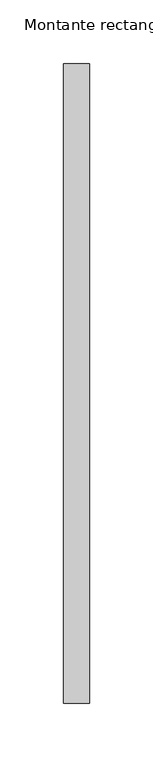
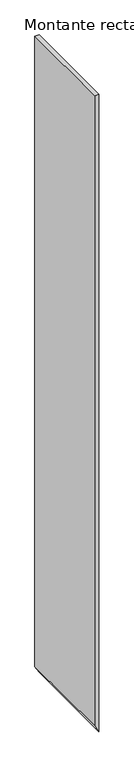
"""IFC4 building model written with IfcOpenShell, lengths in millimetres: member geometry, Montante rectangular : CIRCLES."""

from ifc_helpers import new_model, si_unit, frame, origin, place, context, project, spatial, polyline, outline, extrude, source, transform, mapped, element, save


def montante_rectangular_ee07dd83(model_context):
    return source(origin(), model_context, "Body", "SweptSolid", [
        extrude(outline(polyline([(0.0, 0.0), (0.0, -20.0), (-3226.3618263, -20.0), (-3263.8247608, 0.0), (0.0, 0.0)])), frame((0.0, -250.0, 0.0), z_axis=(0.0, 1.0, 0.0), x_axis=(0.0, 0.0, 1.0)), (0.0, 0.0, 1.0), 500.0),
    ])


if __name__ == "__main__":
    model = new_model("IFC4")
    model_context = context("Model", 3, world=origin())
    ifc_project = project(units=[si_unit("LENGTHUNIT", "METRE", prefix="MILLI")], contexts=[model_context])
    site = spatial("IfcSite", under=ifc_project)
    building = spatial("IfcBuilding", under=site)
    placement = place(None, origin())
    montante_rectangular_shape = montante_rectangular_ee07dd83(model_context)
    element("IfcMember", 1, ObjectType="Montante rectangular : CIRCLES", at=placement, inside=building, context=model_context, shape_type="MappedRepresentation", body=[
        mapped(montante_rectangular_shape, transform((0.0, 0.0, 0.0), x_axis=(1.0, 0.0, 0.0), y_axis=(0.0, 1.0, 0.0), z_axis=(0.0, 0.0, 1.0))),
    ])
    save(model, "model.ifc")
